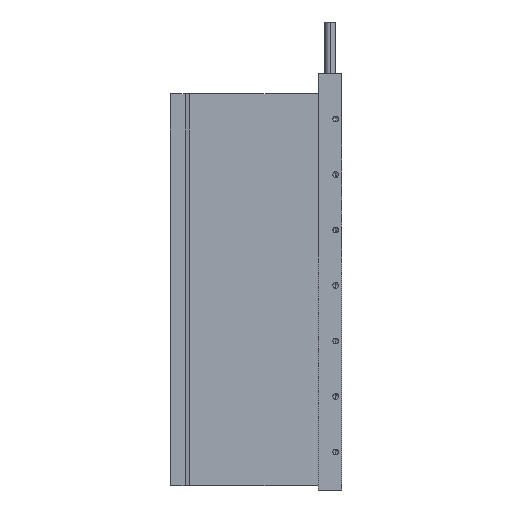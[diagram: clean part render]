
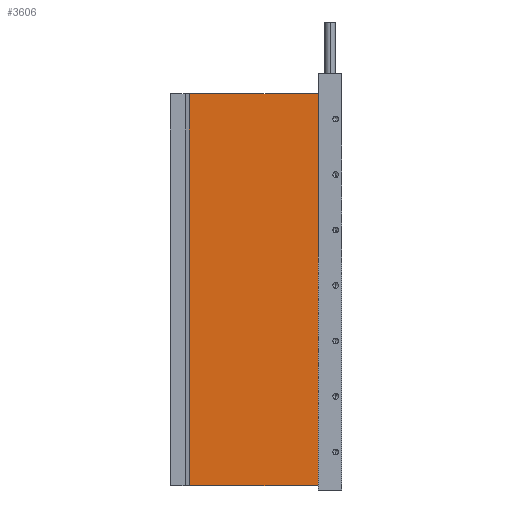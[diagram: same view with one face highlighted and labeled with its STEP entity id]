
A CAD part, left-side view. The second image highlights one B-rep face of the part: STEP entity #3606.
In plain terms, the highlighted planar face has unit normal (-1, 0, 0).
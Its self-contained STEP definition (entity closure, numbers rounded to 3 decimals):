
#2177 = DIRECTION ( 'NONE',  ( 0., 1., 0. ) ) ;
#2178 = DIRECTION ( 'NONE',  ( 1., 0., 0. ) ) ;
#2987 = CARTESIAN_POINT ( 'NONE',  ( 11.85, -30.925, 226. ) ) ;
#2988 = AXIS2_PLACEMENT_3D ( 'NONE', #2987, #2178, #2177 ) ;
#2989 = PLANE ( 'NONE',  #2988 ) ;
#2990 = FACE_OUTER_BOUND ( 'NONE', #3607, .T. ) ;
#3000 = CARTESIAN_POINT ( 'NONE',  ( 11.85, 87.9, 226. ) ) ;
#3116 = DIRECTION ( 'NONE',  ( 0., 0., -1. ) ) ;
#3117 = VECTOR ( 'NONE', #3116, 1000. ) ;
#3118 = CARTESIAN_POINT ( 'NONE',  ( 11.85, 87.9, 226. ) ) ;
#3119 = LINE ( 'NONE', #3118, #3117 ) ;
#3130 = CARTESIAN_POINT ( 'NONE',  ( 11.85, 87.9, 0. ) ) ;
#3131 = DIRECTION ( 'NONE',  ( 0., -1., 0. ) ) ;
#3132 = VECTOR ( 'NONE', #3131, 1000. ) ;
#3133 = CARTESIAN_POINT ( 'NONE',  ( 11.85, -30.925, 0. ) ) ;
#3134 = LINE ( 'NONE', #3133, #3132 ) ;
#3136 = CARTESIAN_POINT ( 'NONE',  ( 11.85, 13.5, 0. ) ) ;
#3177 = DIRECTION ( 'NONE',  ( 0., -1., 0. ) ) ;
#3178 = VECTOR ( 'NONE', #3177, 1000. ) ;
#3179 = CARTESIAN_POINT ( 'NONE',  ( 11.85, -30.925, 226. ) ) ;
#3180 = LINE ( 'NONE', #3179, #3178 ) ;
#3181 = CARTESIAN_POINT ( 'NONE',  ( 11.85, 13.5, 226. ) ) ;
#3182 = DIRECTION ( 'NONE',  ( 0., 0., -1. ) ) ;
#3183 = VECTOR ( 'NONE', #3182, 1000. ) ;
#3330 = CARTESIAN_POINT ( 'NONE',  ( 11.85, 13.5, 226. ) ) ;
#3331 = LINE ( 'NONE', #3330, #3183 ) ;
#3587 = VERTEX_POINT ( 'NONE', #3136 ) ;
#3590 = EDGE_CURVE ( 'NONE', #3591, #3587, #3134, .T. ) ;
#3591 = VERTEX_POINT ( 'NONE', #3130 ) ;
#3599 = EDGE_CURVE ( 'NONE', #3600, #3591, #3119, .T. ) ;
#3600 = VERTEX_POINT ( 'NONE', #3000 ) ;
#3606 = ADVANCED_FACE ( 'NONE', ( #2990 ), #2989, .F. ) ;
#3607 = EDGE_LOOP ( 'NONE', ( #3608, #3609, #3612, #3614 ) ) ;
#3608 = ORIENTED_EDGE ( 'NONE', *, *, #3590, .T. ) ;
#3609 = ORIENTED_EDGE ( 'NONE', *, *, #3610, .F. ) ;
#3610 = EDGE_CURVE ( 'NONE', #3611, #3587, #3331, .T. ) ;
#3611 = VERTEX_POINT ( 'NONE', #3181 ) ;
#3612 = ORIENTED_EDGE ( 'NONE', *, *, #3613, .F. ) ;
#3613 = EDGE_CURVE ( 'NONE', #3600, #3611, #3180, .T. ) ;
#3614 = ORIENTED_EDGE ( 'NONE', *, *, #3599, .T. ) ;
